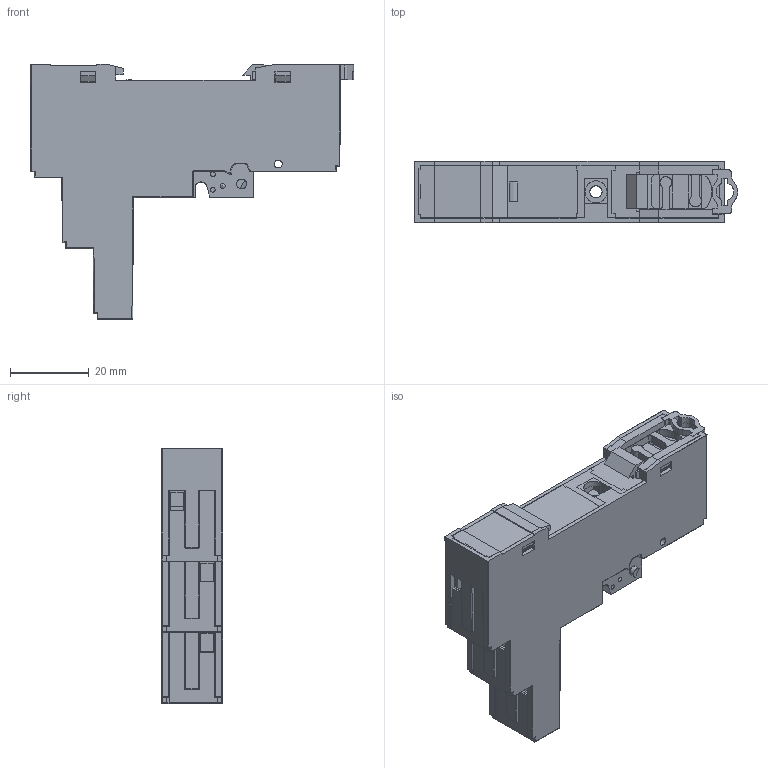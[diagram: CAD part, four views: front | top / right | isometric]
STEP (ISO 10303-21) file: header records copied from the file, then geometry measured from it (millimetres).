
FILE_DESCRIPTION(('STEP AP214'),'2;1');
FILE_NAME('95933.stp','2011-12-13T11:20:21',(''),(''),'2007.1.106','THINKDESIGN','');
FILE_SCHEMA(('AUTOMOTIVE_DESIGN'));
Products named in the file (1): None
Bounding box: 82.14 x 15.5 x 64.8 mm (x, y, z)
Surface area: 18554.8 mm2 (no closed solid volume)
Topology: 0 solids, 0 shells, 803 faces, 4694 edges, 4649 vertices
Faces by surface type: plane 520, cylinder 200, bspline 83
Full cylindrical faces by diameter (mm): 1.2 x4, 2 x2, 2.3 x5, 2.5 x2, 3 x7, 3.6 x3, 5.3 x5, 5.6 x1, 6 x1
Entity records: 51811 total; most frequent: CARTESIAN_POINT 18509, DIRECTION 5861, COMPOSITE_CURVE_SEGMENT 4654, TRIMMED_CURVE 3994, VECTOR 3567, LINE 3567, AXIS2_PLACEMENT_3D 1147, OUTER_BOUNDARY_CURVE 803
